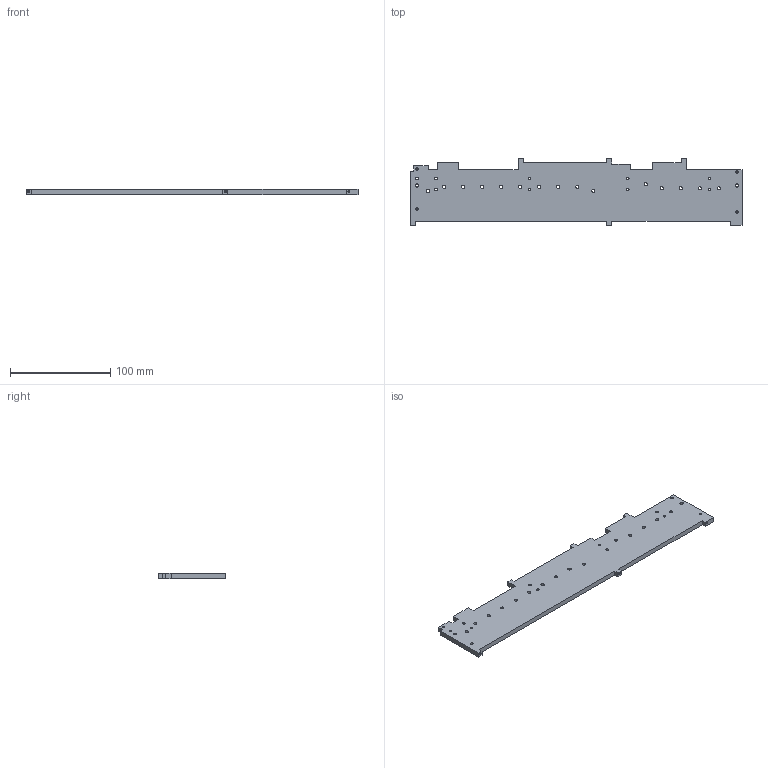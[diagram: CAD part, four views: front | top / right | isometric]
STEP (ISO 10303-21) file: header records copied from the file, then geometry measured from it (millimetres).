
FILE_DESCRIPTION(/* description */ ('','CAx-IF Rec.Pracs.---Representation and Presentation of Product Manufacturing Information (PMI)---4.0---2014-10-13'),/* implementation_level */ '2;1');
FILE_NAME(/* name */ 'G:\Alle CAD Daten\CAMTEC_2020_Pack and Go\PSU CPS-i3000 - CPS-i2000\2011060004.stp',/* time_stamp */ '2020-09-20T20:19:36+02:00',/* author */ ('rryba'),/* organization */ (''),/* preprocessor_version */ 'ST-DEVELOPER v18.1',/* originating_system */ 'Autodesk Inventor 2021',/* authorisation */ '');
FILE_SCHEMA (('AP242_MANAGED_MODEL_BASED_3D_ENGINEERING_MIM_LF { 1 0 10303 442 1 1 4 }'));
Length unit declared in the file: millimetre
Products named in the file (1): 2011060004
Bounding box: 331.5 x 66.7 x 5 mm (x, y, z)
Volume: 91149.9 mm3; surface area: 42701.5 mm2
Topology: 1 solids, 1 shells, 80 faces, 274 edges, 242 vertices
Faces by surface type: plane 38, cylinder 36, cone 6
Full cylindrical faces by diameter (mm): 2.013 x6, 2.459 x13, 3.242 x17
Entity records: 2993 total; most frequent: CARTESIAN_POINT 550, DIRECTION 464, ORIENTED_EDGE 444, EDGE_CURVE 222, AXIS2_PLACEMENT_3D 157, LINE 150, VECTOR 150, VERTEX_POINT 150
